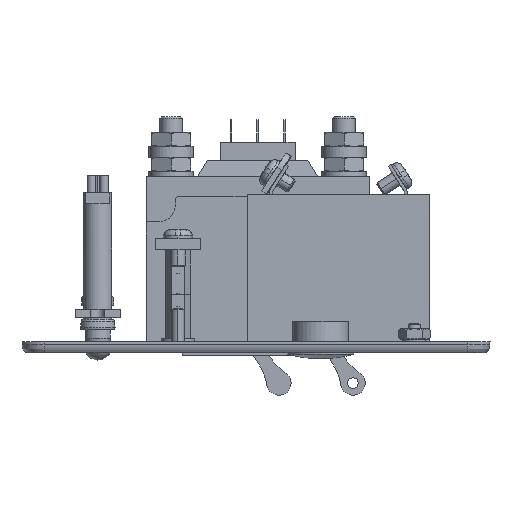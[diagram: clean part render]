
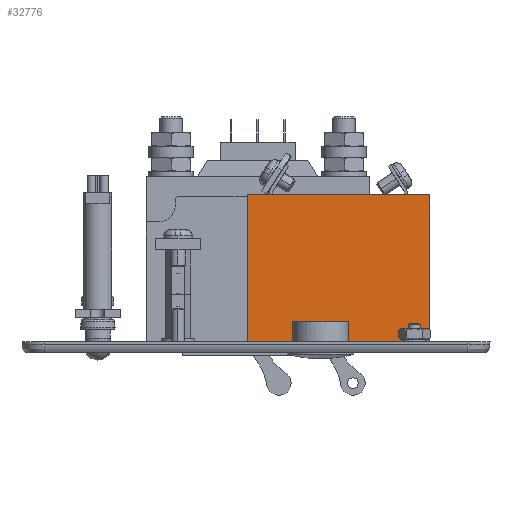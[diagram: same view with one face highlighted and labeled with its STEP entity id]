
A CAD part, front view. The second image highlights one B-rep face of the part: STEP entity #32776.
In plain terms, the highlighted planar face has unit normal (-0.001, -1, 0).
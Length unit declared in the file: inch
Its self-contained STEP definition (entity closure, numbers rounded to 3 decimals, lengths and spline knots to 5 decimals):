
#31906=CARTESIAN_POINT('',(-0.6921,-0.375,-1.025));
#31907=VERTEX_POINT('',#31906);
#31908=CARTESIAN_POINT('',(-0.6921,-0.375,1.025));
#31909=VERTEX_POINT('',#31908);
#31910=CARTESIAN_POINT('',(-0.6921,-0.375,-1.025));
#31911=DIRECTION('',(0.0,0.0,1.0));
#31912=VECTOR('',#31911,2.05);
#31913=LINE('',#31910,#31912);
#31914=EDGE_CURVE('',#31907,#31909,#31913,.T.);
#32674=CARTESIAN_POINT('',(0.9579,-0.375,1.025));
#32675=VERTEX_POINT('',#32674);
#32676=CARTESIAN_POINT('',(0.9579,-0.375,-1.025));
#32677=VERTEX_POINT('',#32676);
#32678=CARTESIAN_POINT('',(0.9579,-0.375,1.025));
#32679=DIRECTION('',(0.0,0.0,-1.0));
#32680=VECTOR('',#32679,2.05);
#32681=LINE('',#32678,#32680);
#32682=EDGE_CURVE('',#32675,#32677,#32681,.T.);
#32726=CARTESIAN_POINT('',(0.9579,-0.375,-1.025));
#32727=DIRECTION('',(-1.0,0.0,0.0));
#32728=VECTOR('',#32727,1.65);
#32729=LINE('',#32726,#32728);
#32730=EDGE_CURVE('',#32677,#31907,#32729,.T.);
#32748=CARTESIAN_POINT('',(-0.6921,-0.375,1.025));
#32749=DIRECTION('',(1.0,0.0,0.0));
#32750=VECTOR('',#32749,1.65);
#32751=LINE('',#32748,#32750);
#32752=EDGE_CURVE('',#31909,#32675,#32751,.T.);
#32765=CARTESIAN_POINT('',(0.9579,-0.375,1.025));
#32766=DIRECTION('',(0.0,-1.0,0.0));
#32767=DIRECTION('',(0.0,0.0,1.0));
#32768=AXIS2_PLACEMENT_3D('',#32765,#32766,#32767);
#32769=PLANE('',#32768);
#32770=ORIENTED_EDGE('',*,*,#32682,.F.);
#32771=ORIENTED_EDGE('',*,*,#32752,.F.);
#32772=ORIENTED_EDGE('',*,*,#31914,.F.);
#32773=ORIENTED_EDGE('',*,*,#32730,.F.);
#32774=EDGE_LOOP('',(#32770,#32771,#32772,#32773));
#32775=FACE_OUTER_BOUND('',#32774,.T.);
#32776=ADVANCED_FACE('',(#32775),#32769,.T.);
